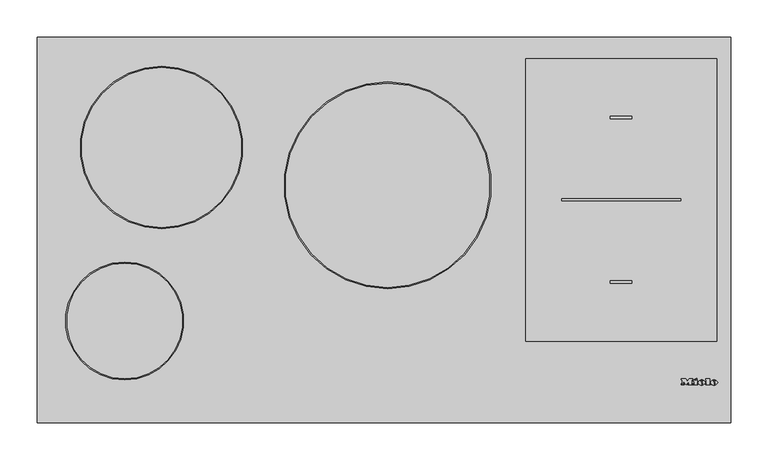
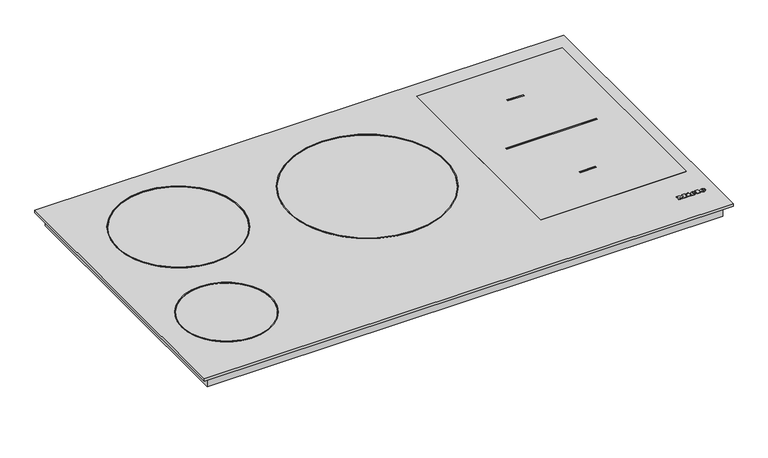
"""IFC4 building model written with IfcOpenShell, lengths in millimetres: proxy geometry, 11512180_CH_KM7899FL : 26789970_CH_11512180_KM7899FL."""

from ifc_helpers import new_model, si_unit, point, frame, frame_2d, origin, origin_with_axes, place, context, project, spatial, polyline, circle_curve, ellipse_curve, trimmed, segment, composite_curve, outline, extrude, source, transform, mapped, element, save
from ifc_brep_helpers import plane_surface, cylinder_surface, revolved_surface, extruded_surface, advanced_brep


def specialty_equipment_c3af45f5(model_context):
    return source(origin(), model_context, "Body", "SolidModel", [
        advanced_brep(
        [(444.648, 52.8948833, 4.9922537), (444.648, 53.7028828, 4.9931551), (450.0, 53.7028828, 4.9931551), (440.688, 53.7028828, 4.9931551), (442.888, 50.9988845, 4.9901386), (449.864, 52.8948833, 4.9922537), (447.448, 52.8948833, 4.9922537), (445.544, 51.9988838, 4.9912542), (444.648, 54.7268821, 4.9942974), (444.648, 55.5988816, 4.9952701), (446.016, 55.5988816, 4.9952701), (446.016, 54.7268821, 4.9942974), (444.648, 52.8959988, 3.9922543), (445.544, 51.9999994, 3.9912548), (447.448, 52.8959988, 3.9922543), (449.864, 52.8959988, 3.9922543), (442.888, 51.0, 3.9901393), (440.688, 53.7039983, 3.9931557), (450.0, 53.7039983, 3.9931557), (444.648, 53.7039983, 3.9931557), (444.648, 54.7279977, 3.994298), (446.016, 54.7279977, 3.994298), (446.016, 55.5999971, 3.9952707), (444.648, 55.5999971, 3.9952707)],
        [
            (0, 1),
            (1, 2),
            (2, 3, ellipse_curve(frame((445.344, 53.7028828, 4.9931551), z_axis=(0.0, -0.0011155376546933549, 0.9999993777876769), x_axis=(-1.0, 0.0, 0.0)), 4.656, 3.848)),
            (3, 4, circle_curve(frame((443.7840436, 53.9748826, 4.9934585), z_axis=(0.0, -0.0011155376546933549, 0.9999993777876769), x_axis=(0.0, -0.9999993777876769, -0.0011155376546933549)), 3.1079688)),
            (4, 5, circle_curve(frame((445.2507936, 56.0868813, 4.9958145), z_axis=(0.0, -0.0011155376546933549, 0.9999993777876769), x_axis=(0.0, -0.9999993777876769, -0.0011155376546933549)), 5.6098607)),
            (5, 6),
            (6, 7, circle_curve(frame((445.9350588, 53.6388828, 4.9930837), z_axis=(0.0, 0.0011155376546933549, -0.9999993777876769), x_axis=(0.0, -0.9999993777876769, -0.0011155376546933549)), 1.6859795)),
            (7, 0, circle_curve(frame((445.544, 52.8948833, 4.9922537), z_axis=(0.0, 0.0011155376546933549, -0.9999993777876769), x_axis=(0.0, -0.9999993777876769, -0.0011155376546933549)), 0.896)),
            (8, 9),
            (9, 10, circle_curve(frame((445.332, 55.5988816, 4.9952701), z_axis=(0.0, 0.0011155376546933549, -0.9999993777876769), x_axis=(0.0, -0.9999993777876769, -0.0011155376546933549)), 0.684)),
            (10, 11),
            (11, 8),
            (12, 13, circle_curve(frame((445.544, 52.8959988, 3.9922543), z_axis=(0.0, -0.0011155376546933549, 0.9999993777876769), x_axis=(0.0, -0.9999993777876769, -0.0011155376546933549)), 0.896)),
            (13, 14, circle_curve(frame((445.9350588, 53.6399984, 3.9930843), z_axis=(0.0, -0.0011155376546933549, 0.9999993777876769), x_axis=(0.0, -0.9999993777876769, -0.0011155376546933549)), 1.6859795)),
            (14, 15),
            (15, 16, circle_curve(frame((445.2507936, 56.0879968, 3.9958151), z_axis=(0.0, 0.0011155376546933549, -0.9999993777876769), x_axis=(0.0, -0.9999993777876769, -0.0011155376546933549)), 5.6098607)),
            (16, 17, circle_curve(frame((443.7840436, 53.9759981, 3.9934591), z_axis=(0.0, 0.0011155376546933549, -0.9999993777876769), x_axis=(0.0, -0.9999993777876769, -0.0011155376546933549)), 3.1079688)),
            (17, 18, ellipse_curve(frame((445.344, 53.7039983, 3.9931557), z_axis=(0.0, 0.0011155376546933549, -0.9999993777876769), x_axis=(-1.0, 0.0, 0.0)), 4.656, 3.848)),
            (18, 19),
            (19, 12),
            (20, 21),
            (21, 22),
            (22, 23, circle_curve(frame((445.332, 55.5999971, 3.9952707), z_axis=(0.0, -0.0011155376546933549, 0.9999993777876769), x_axis=(0.0, -0.9999993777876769, -0.0011155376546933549)), 0.684)),
            (23, 20),
            (0, 12),
            (19, 1),
            (18, 2),
            (5, 15),
            (14, 6),
            (17, 3),
            (13, 7),
            (16, 4),
            (8, 20),
            (23, 9),
            (22, 10),
            (21, 11),
        ],
        [
            plane_surface(frame((444.648, 53.7028828, 4.9931551), z_axis=(0.0, -0.0011155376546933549, 0.9999993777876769), x_axis=(0.0, 0.9999993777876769, 0.0011155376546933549))),
            plane_surface(frame((444.648, 53.7039983, 3.9931557), z_axis=(0.0, 0.0011155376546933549, -0.9999993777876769), x_axis=(0.0, -0.9999993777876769, -0.0011155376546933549))),
            plane_surface(frame((444.648, 52.8948833, 4.9922537), z_axis=(1.0000000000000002, 0.0, 0.0), x_axis=(0.0, 0.001115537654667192, -0.999999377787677))),
            plane_surface(frame((444.648, 53.7028828, 4.9931551), z_axis=(0.0, -0.999999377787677, -0.001115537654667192), x_axis=(0.0, 0.001115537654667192, -0.999999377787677))),
            plane_surface(frame((449.864, 52.8948833, 4.9922537), z_axis=(0.0, 0.999999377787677, 0.001115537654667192), x_axis=(0.0, 0.001115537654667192, -0.999999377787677))),
            extruded_surface(trimmed(ellipse_curve(frame((445.344, 53.7051139, 2.9931563), z_axis=(0.0, -0.0011155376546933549, 0.9999993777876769), x_axis=(-1.0, 0.0, 0.0)), 4.656, 3.848), [point((450.0, 53.7051139, 2.9931563))], [point((440.688, 53.7051139, 2.9931563))], True, "CARTESIAN"), (0.0, -0.001115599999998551, 0.9999994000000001), 1.00000002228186),
            revolved_surface(polyline([(445.9350588, 51.954019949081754, 3.991203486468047), (445.9350588, 51.95290441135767, 4.99120292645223)]), (445.9350588, 53.6399984, 3.9930843), (0.0, 0.0011155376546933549, -0.9999993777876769)),
            revolved_surface(polyline([(445.544, 51.99999935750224, 3.9912547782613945), (445.544, 51.99888381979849, 4.991254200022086)]), (445.544, 52.8959988, 3.9922543), (0.0, 0.0011155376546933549, -0.9999993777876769)),
            cylinder_surface(frame((443.7840436, 53.9759981, 3.9934591), z_axis=(0.0, -0.0011155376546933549, 0.9999993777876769), x_axis=(0.0, -0.9999993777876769, -0.0011155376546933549)), 3.1079688),
            cylinder_surface(frame((445.2507936, 56.0879968, 3.9958151), z_axis=(0.0, -0.0011155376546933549, 0.9999993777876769), x_axis=(0.0, -0.9999993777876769, -0.0011155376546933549)), 5.6098607),
            plane_surface(frame((444.648, 54.7268821, 4.9942974), z_axis=(1.0000000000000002, 0.0, 0.0), x_axis=(0.0, 0.001115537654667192, -0.999999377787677))),
            revolved_surface(polyline([(445.332, 54.915997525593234, 3.9945076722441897), (445.332, 54.91488198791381, 4.994507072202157)]), (445.332, 55.5999971, 3.9952707), (0.0, 0.0011155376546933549, -0.9999993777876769)),
            plane_surface(frame((446.016, 55.5988816, 4.9952701), z_axis=(-1.0000000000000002, 0.0, 0.0), x_axis=(0.0, 0.001115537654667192, -0.999999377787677))),
            plane_surface(frame((446.016, 54.7268821, 4.9942974), z_axis=(0.0, 0.999999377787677, 0.001115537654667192), x_axis=(0.0, 0.001115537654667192, -0.999999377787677))),
        ],
        [
            (0, [[1, 2, 3, 4, 5, 6, 7, 8], [9, 10, 11, 12]]),
            (1, [[13, 14, 15, 16, 17, 18, 19, 20], [21, 22, 23, 24]]),
            (2, [[-1, 25, -20, 26]]),
            (3, [[-2, -26, -19, 27]]),
            (4, [[-6, 28, -15, 29]]),
            (5, [[-3, -27, -18, 30]]),
            (6, [[-7, -29, -14, 31]]),
            (7, [[-8, -31, -13, -25]]),
            (8, [[-4, -30, -17, 32]]),
            (9, [[-5, -32, -16, -28]]),
            (10, [[-9, 33, -24, 34]]),
            (11, [[-10, -34, -23, 35]]),
            (12, [[-11, -35, -22, 36]]),
            (13, [[-12, -36, -21, -33]]),
        ],
    ),
        advanced_brep(
        [(427.952, 52.8948833, 4.9922537), (427.952, 53.7028828, 4.9931551), (433.304, 53.7028828, 4.9931551), (423.992, 53.7028828, 4.9931551), (426.192, 50.9988845, 4.9901386), (433.168, 52.8948833, 4.9922537), (430.752, 52.8948833, 4.9922537), (428.848, 51.9988838, 4.9912542), (427.952, 54.7268821, 4.9942974), (427.952, 55.5988816, 4.9952701), (429.32, 55.5988816, 4.9952701), (429.32, 54.7268821, 4.9942974), (427.952, 52.8959988, 3.9922543), (428.848, 51.9999994, 3.9912548), (430.752, 52.8959988, 3.9922543), (433.168, 52.8959988, 3.9922543), (426.192, 51.0, 3.9901393), (423.992, 53.7039983, 3.9931557), (433.304, 53.7039983, 3.9931557), (427.952, 53.7039983, 3.9931557), (427.952, 54.7279977, 3.994298), (429.32, 54.7279977, 3.994298), (429.32, 55.5999971, 3.9952707), (427.952, 55.5999971, 3.9952707)],
        [
            (0, 1),
            (1, 2),
            (2, 3, ellipse_curve(frame((428.648, 53.7028828, 4.9931551), z_axis=(0.0, -0.0011155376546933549, 0.9999993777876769), x_axis=(-1.0, 0.0, 0.0)), 4.656, 3.848)),
            (3, 4, circle_curve(frame((427.0880436, 53.9748826, 4.9934585), z_axis=(0.0, -0.0011155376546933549, 0.9999993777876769), x_axis=(0.0, -0.9999993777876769, -0.0011155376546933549)), 3.1079688)),
            (4, 5, circle_curve(frame((428.5547936, 56.0868813, 4.9958145), z_axis=(0.0, -0.0011155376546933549, 0.9999993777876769), x_axis=(0.0, -0.9999993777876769, -0.0011155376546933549)), 5.6098607)),
            (5, 6),
            (6, 7, circle_curve(frame((429.2390588, 53.6388828, 4.9930837), z_axis=(0.0, 0.0011155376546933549, -0.9999993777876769), x_axis=(0.0, -0.9999993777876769, -0.0011155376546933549)), 1.6859795)),
            (7, 0, circle_curve(frame((428.848, 52.8948833, 4.9922537), z_axis=(0.0, 0.0011155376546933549, -0.9999993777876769), x_axis=(0.0, -0.9999993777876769, -0.0011155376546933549)), 0.896)),
            (8, 9),
            (9, 10, circle_curve(frame((428.636, 55.5988816, 4.9952701), z_axis=(0.0, 0.0011155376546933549, -0.9999993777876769), x_axis=(0.0, -0.9999993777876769, -0.0011155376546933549)), 0.684)),
            (10, 11),
            (11, 8),
            (12, 13, circle_curve(frame((428.848, 52.8959988, 3.9922543), z_axis=(0.0, -0.0011155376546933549, 0.9999993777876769), x_axis=(0.0, -0.9999993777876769, -0.0011155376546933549)), 0.896)),
            (13, 14, circle_curve(frame((429.2390588, 53.6399984, 3.9930843), z_axis=(0.0, -0.0011155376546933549, 0.9999993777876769), x_axis=(0.0, -0.9999993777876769, -0.0011155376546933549)), 1.6859795)),
            (14, 15),
            (15, 16, circle_curve(frame((428.5547936, 56.0879968, 3.9958151), z_axis=(0.0, 0.0011155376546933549, -0.9999993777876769), x_axis=(0.0, -0.9999993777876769, -0.0011155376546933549)), 5.6098607)),
            (16, 17, circle_curve(frame((427.0880436, 53.9759981, 3.9934591), z_axis=(0.0, 0.0011155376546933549, -0.9999993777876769), x_axis=(0.0, -0.9999993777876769, -0.0011155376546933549)), 3.1079688)),
            (17, 18, ellipse_curve(frame((428.648, 53.7039983, 3.9931557), z_axis=(0.0, 0.0011155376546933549, -0.9999993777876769), x_axis=(-1.0, 0.0, 0.0)), 4.656, 3.848)),
            (18, 19),
            (19, 12),
            (20, 21),
            (21, 22),
            (22, 23, circle_curve(frame((428.636, 55.5999971, 3.9952707), z_axis=(0.0, -0.0011155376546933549, 0.9999993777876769), x_axis=(0.0, -0.9999993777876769, -0.0011155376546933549)), 0.684)),
            (23, 20),
            (0, 12),
            (19, 1),
            (18, 2),
            (5, 15),
            (14, 6),
            (17, 3),
            (13, 7),
            (16, 4),
            (8, 20),
            (23, 9),
            (22, 10),
            (21, 11),
        ],
        [
            plane_surface(frame((427.952, 53.7028828, 4.9931551), z_axis=(0.0, -0.0011155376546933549, 0.9999993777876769), x_axis=(0.0, 0.9999993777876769, 0.0011155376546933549))),
            plane_surface(frame((427.952, 53.7039983, 3.9931557), z_axis=(0.0, 0.0011155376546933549, -0.9999993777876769), x_axis=(0.0, -0.9999993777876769, -0.0011155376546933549))),
            plane_surface(frame((427.952, 52.8948833, 4.9922537), z_axis=(1.0000000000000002, 0.0, 0.0), x_axis=(0.0, 0.001115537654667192, -0.999999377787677))),
            plane_surface(frame((427.952, 53.7028828, 4.9931551), z_axis=(0.0, -0.999999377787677, -0.001115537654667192), x_axis=(0.0, 0.001115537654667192, -0.999999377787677))),
            plane_surface(frame((433.168, 52.8948833, 4.9922537), z_axis=(0.0, 0.999999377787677, 0.001115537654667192), x_axis=(0.0, 0.001115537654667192, -0.999999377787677))),
            extruded_surface(trimmed(ellipse_curve(frame((428.648, 53.7051139, 2.9931563), z_axis=(0.0, -0.0011155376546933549, 0.9999993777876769), x_axis=(-1.0, 0.0, 0.0)), 4.656, 3.848), [point((433.304, 53.7051139, 2.9931563))], [point((423.992, 53.7051139, 2.9931563))], True, "CARTESIAN"), (0.0, -0.001115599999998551, 0.9999994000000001), 1.00000002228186),
            revolved_surface(polyline([(429.2390588, 51.954019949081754, 3.991203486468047), (429.2390588, 51.95290441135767, 4.99120292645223)]), (429.2390588, 53.6399984, 3.9930843), (0.0, 0.0011155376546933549, -0.9999993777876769)),
            revolved_surface(polyline([(428.848, 51.99999935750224, 3.9912547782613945), (428.848, 51.99888381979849, 4.991254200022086)]), (428.848, 52.8959988, 3.9922543), (0.0, 0.0011155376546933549, -0.9999993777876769)),
            cylinder_surface(frame((427.0880436, 53.9759981, 3.9934591), z_axis=(0.0, -0.0011155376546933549, 0.9999993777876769), x_axis=(0.0, -0.9999993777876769, -0.0011155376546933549)), 3.1079688),
            cylinder_surface(frame((428.5547936, 56.0879968, 3.9958151), z_axis=(0.0, -0.0011155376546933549, 0.9999993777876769), x_axis=(0.0, -0.9999993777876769, -0.0011155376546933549)), 5.6098607),
            plane_surface(frame((427.952, 54.7268821, 4.9942974), z_axis=(1.0000000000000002, 0.0, 0.0), x_axis=(0.0, 0.001115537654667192, -0.999999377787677))),
            revolved_surface(polyline([(428.636, 54.915997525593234, 3.9945076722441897), (428.636, 54.91488198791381, 4.994507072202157)]), (428.636, 55.5999971, 3.9952707), (0.0, 0.0011155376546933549, -0.9999993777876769)),
            plane_surface(frame((429.32, 55.5988816, 4.9952701), z_axis=(-1.0000000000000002, 0.0, 0.0), x_axis=(0.0, 0.001115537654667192, -0.999999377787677))),
            plane_surface(frame((429.32, 54.7268821, 4.9942974), z_axis=(0.0, 0.999999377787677, 0.001115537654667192), x_axis=(0.0, 0.001115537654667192, -0.999999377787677))),
        ],
        [
            (0, [[1, 2, 3, 4, 5, 6, 7, 8], [9, 10, 11, 12]]),
            (1, [[13, 14, 15, 16, 17, 18, 19, 20], [21, 22, 23, 24]]),
            (2, [[-1, 25, -20, 26]]),
            (3, [[-2, -26, -19, 27]]),
            (4, [[-6, 28, -15, 29]]),
            (5, [[-3, -27, -18, 30]]),
            (6, [[-7, -29, -14, 31]]),
            (7, [[-8, -31, -13, -25]]),
            (8, [[-4, -30, -17, 32]]),
            (9, [[-5, -32, -16, -28]]),
            (10, [[-9, 33, -24, 34]]),
            (11, [[-10, -34, -23, 35]]),
            (12, [[-11, -35, -22, 36]]),
            (13, [[-12, -36, -21, -33]]),
        ],
    ),
        extrude(outline(polyline([(0.0, 0.0), (-0.0109086, -2.9993294), (-1.4390415, -2.9920868), (-1.4315307, 0.0), (0.0, 0.0)])), frame((419.208, 58.5279953, 3.998537), z_axis=(0.0, -0.001115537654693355, 0.999999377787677), x_axis=(-0.4247202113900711, 0.9053240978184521, 0.0010099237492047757)), (0.0, 0.0, 1.0), 1.0),
        extrude(outline(polyline([(-0.4933908, 2.4141097), (-2.7800844, -2.4601583), (-7.0459741, -0.4588767), (-7.4401145, -1.299018), (-8.6568709, -0.728194), (-5.9760369, 4.9862153), (-4.7592805, 4.4153913), (-5.1636142, 3.5535222), (-2.1941493, 2.1604399), (-1.7898157, 3.022309), (-0.4933908, 2.4141097)])), frame((419.208, 58.5279953, 3.998537), z_axis=(0.0, -0.001115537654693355, 0.999999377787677), x_axis=(-0.4247202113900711, 0.9053240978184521, 0.0010099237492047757)), (0.0, 0.0, 1.0), 1.0),
        extrude(outline(polyline([(0.0, 0.0), (0.0, -1.304), (-5.504, -1.304), (-5.504, 5.3519999), (-6.488, 5.3519999), (-6.488, 6.696), (0.0, 6.696), (0.0, 5.3519999), (-0.96, 5.3519999), (-0.96, 0.0), (0.0, 0.0)])), frame((433.752, 57.6959958, 3.9976089), z_axis=(0.0, -0.0011155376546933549, 0.9999993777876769), x_axis=(-1.0, 0.0, 0.0)), (0.0, 0.0, 1.0), 1.0),
        extrude(outline(polyline([(0.0, 0.0), (0.0, -1.304), (-5.576, -1.304), (-7.92, 1.696), (-10.256, -1.304), (-15.128, -1.304), (-15.128, 0.0), (-14.112, 0.0), (-14.112, 5.3519999), (-15.128, 5.3519999), (-15.128, 6.696), (-8.744, 6.696), (-8.744, 5.3519999), (-9.728, 5.3519999), (-9.728, 1.8807777), (-6.136, 6.696), (-2.56, 1.9488752), (-2.56, 5.3519999), (-3.52, 5.3519999), (-3.52, 6.696), (0.0, 6.696), (0.0, 5.3519999), (-0.968, 5.3519999), (-0.968, 0.0), (0.0, 0.0)])), frame((401.288, 57.6959958, 3.9976089), z_axis=(0.0, -0.0011155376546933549, 0.9999993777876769), x_axis=(-1.0, 0.0, 0.0)), (0.0, 0.0, 1.0), 1.0),
        extrude(outline(polyline([(290.3772603, 428.0), (283.0, 428.0), (283.0, 429.2557039), (289.1215564, 429.2557039), (289.1215564, 432.5519266), (283.470889, 432.5519266), (283.470889, 433.8076304), (289.1215564, 433.8076304), (289.1215564, 436.7899271), (283.156963, 436.7899271), (283.156963, 438.045631), (290.3772603, 438.045631), (290.3772603, 428.0)])), frame((0.0, 0.0, -78.0), z_axis=(0.0, 0.0, 1.0), x_axis=(1.0, 0.0, 0.0)), (0.0, 0.0, 1.0), 1.0),
        extrude(outline(polyline([(281.1164442, 428.0), (274.8379248, 428.0), (274.8379248, 429.2557039), (279.8607403, 429.2557039), (279.8607403, 438.045631), (281.1164442, 438.045631), (281.1164442, 428.0)])), frame((0.0, 0.0, -78.0), z_axis=(0.0, 0.0, 1.0), x_axis=(1.0, 0.0, 0.0)), (0.0, 0.0, 1.0), 1.0),
        extrude(outline(polyline([(468.0, 520.0), (468.0, 0.0), (-468.0, 0.0), (-468.0, 520.0), (468.0, 520.0)])), origin_with_axes(), (0.0, 0.0, 1.0), 4.0),
        extrude(outline(polyline([(456.5, 508.5), (456.5, 11.5), (-456.5, 11.5), (-456.5, 508.5), (456.5, 508.5)])), frame((0.0, 0.0, -22.0), z_axis=(0.0, 0.0, 1.0), x_axis=(1.0, 0.0, 0.0)), (0.0, 0.0, 1.0), 22.0),
        extrude(outline(composite_curve([segment(trimmed(circle_curve(frame_2d((5.0, 320.0)), 139.5), [point((5.0, 459.5))], [point((5.0, 180.5))], False, "CARTESIAN"), True, "CONTINUOUS"), segment(trimmed(circle_curve(frame_2d((5.0, 320.0)), 139.5), [point((5.0, 180.5))], [point((5.0, 459.5))], False, "CARTESIAN"), True, "CONTINUOUS")], self_intersect=False), holes=[composite_curve([segment(trimmed(circle_curve(frame_2d((5.0, 320.0)), 138.0), [point((5.0, 458.0))], [point((5.0, 182.0))], True, "CARTESIAN"), True, "CONTINUOUS"), segment(trimmed(circle_curve(frame_2d((5.0, 320.0)), 138.0), [point((5.0, 182.0))], [point((5.0, 458.0))], True, "CARTESIAN"), True, "CONTINUOUS")], self_intersect=False)]), frame((0.0, 0.0, 4.0), z_axis=(0.0, 0.0, 1.0), x_axis=(1.0, 0.0, 0.0)), (0.0, 0.0, 1.0), 1.0),
        extrude(outline(composite_curve([segment(trimmed(circle_curve(frame_2d((-300.0, 371.0)), 109.5), [point((-300.0, 480.5))], [point((-300.0, 261.5))], False, "CARTESIAN"), True, "CONTINUOUS"), segment(trimmed(circle_curve(frame_2d((-300.0, 371.0)), 109.5), [point((-300.0, 261.5))], [point((-300.0, 480.5))], False, "CARTESIAN"), True, "CONTINUOUS")], self_intersect=False), holes=[composite_curve([segment(trimmed(circle_curve(frame_2d((-300.0, 371.0)), 108.0), [point((-300.0, 479.0))], [point((-300.0, 263.0))], True, "CARTESIAN"), True, "CONTINUOUS"), segment(trimmed(circle_curve(frame_2d((-300.0, 371.0)), 108.0), [point((-300.0, 263.0))], [point((-300.0, 479.0))], True, "CARTESIAN"), True, "CONTINUOUS")], self_intersect=False)]), frame((0.0, 0.0, 4.0), z_axis=(0.0, 0.0, 1.0), x_axis=(1.0, 0.0, 0.0)), (0.0, 0.0, 1.0), 1.0),
        extrude(outline(composite_curve([segment(trimmed(circle_curve(frame_2d((-350.0, 137.0)), 79.5), [point((-350.0, 216.5))], [point((-350.0, 57.5))], False, "CARTESIAN"), True, "CONTINUOUS"), segment(trimmed(circle_curve(frame_2d((-350.0, 137.0)), 79.5), [point((-350.0, 57.5))], [point((-350.0, 216.5))], False, "CARTESIAN"), True, "CONTINUOUS")], self_intersect=False), holes=[composite_curve([segment(trimmed(circle_curve(frame_2d((-350.0, 137.0)), 78.0), [point((-350.0, 215.0))], [point((-350.0, 59.0))], True, "CARTESIAN"), True, "CONTINUOUS"), segment(trimmed(circle_curve(frame_2d((-350.0, 137.0)), 78.0), [point((-350.0, 59.0))], [point((-350.0, 215.0))], True, "CARTESIAN"), True, "CONTINUOUS")], self_intersect=False)]), frame((0.0, 0.0, 4.0), z_axis=(0.0, 0.0, 1.0), x_axis=(1.0, 0.0, 0.0)), (0.0, 0.0, 1.0), 1.0),
        extrude(outline(polyline([(449.0, 491.0), (449.0, 110.0), (191.0, 110.0), (191.0, 491.0), (449.0, 491.0)]), holes=[polyline([(334.5, 413.0), (305.5, 413.0), (305.5, 410.0), (334.5, 410.0), (334.5, 413.0)]), polyline([(400.0, 299.0), (400.0, 302.0), (240.0, 302.0), (240.0, 299.0), (400.0, 299.0)]), polyline([(334.5, 191.0), (305.5, 191.0), (305.5, 188.0), (334.5, 188.0), (334.5, 191.0)])]), frame((0.0, 0.0, 4.0), z_axis=(0.0, 0.0, 1.0), x_axis=(1.0, 0.0, 0.0)), (0.0, 0.0, 1.0), 1.0),
        extrude(outline(composite_curve([segment(trimmed(circle_curve(frame_2d((283.0, 433.0)), 7.5), [point((283.0, 440.5))], [point((283.0, 425.5))], False, "CARTESIAN"), True, "CONTINUOUS"), segment(trimmed(circle_curve(frame_2d((283.0, 433.0)), 7.5), [point((283.0, 425.5))], [point((283.0, 440.5))], False, "CARTESIAN"), True, "CONTINUOUS")], self_intersect=False)), frame((0.0, 0.0, -77.0), z_axis=(0.0, 0.0, 1.0), x_axis=(1.0, 0.0, 0.0)), (0.0, 0.0, 1.0), 30.0),
        extrude(outline(polyline([(361.0, 467.0), (361.0, 96.0), (-361.0, 96.0), (-361.0, 467.0), (361.0, 467.0)])), frame((0.0, 0.0, -47.0), z_axis=(0.0, 0.0, 1.0), x_axis=(1.0, 0.0, 0.0)), (0.0, 0.0, 1.0), 25.0),
    ])


if __name__ == "__main__":
    model = new_model("IFC4")
    model_context = context("Model", 3, world=origin())
    ifc_project = project(units=[si_unit("LENGTHUNIT", "METRE", prefix="MILLI")], contexts=[model_context])
    site = spatial("IfcSite", under=ifc_project)
    building = spatial("IfcBuilding", under=site)
    placement = place(None, origin())
    specialty_equipment_shape = specialty_equipment_c3af45f5(model_context)
    element("IfcBuildingElementProxy", 1, Name="11512180_CH_KM7899FL : 26789970_CH_11512180_KM7899FL", ObjectType="11512180_CH_KM7899FL : 26789970_CH_11512180_KM7899FL", at=placement, inside=building, context=model_context, shape_type="MappedRepresentation", body=[
        mapped(specialty_equipment_shape, transform((0.0, 0.0, 0.0), x_axis=(1.0, 0.0, 0.0), y_axis=(0.0, 1.0, 0.0), z_axis=(0.0, 0.0, 1.0))),
    ])
    save(model, "model.ifc")
